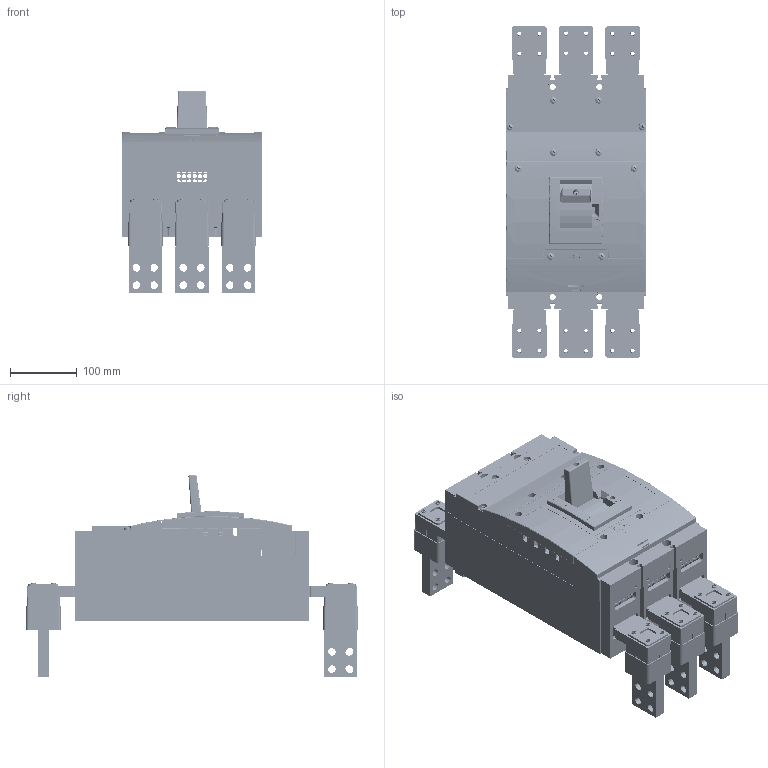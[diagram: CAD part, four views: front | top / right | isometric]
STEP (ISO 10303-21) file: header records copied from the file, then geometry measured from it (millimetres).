
FILE_DESCRIPTION (( 'STEP AP214' ), '1' );
FILE_NAME ('BL1600SE305__SE-BL__CS-BL-A021.step', '2011-09-08T07:41:23', ( 'Radek Veselý' ), ( 'Siemens and Partners' ), 'SwSTEP 2.0', 'SolidWorks 2006303', '' );
FILE_SCHEMA (( 'AUTOMOTIVE_DESIGN' ));
Length unit declared in the file: millimetre
Products named in the file (1): BL1600SE305__SE-BL__CS-BL-A021
Bounding box: 210 x 497 x 303.02 mm (x, y, z)
Volume: 4453848.9 mm3; surface area: 1761017.8 mm2
Topology: 69 solids, 69 shells, 7449 faces, 20322 edges, 13037 vertices
Faces by surface type: plane 3963, cylinder 2753, cone 258, torus 187, sphere 158, bspline 130
Entity records: 330441 total; most frequent: CARTESIAN_POINT 55888, ORIENTED_EDGE 40386, DIRECTION 39960, EDGE_CURVE 20193, AXIS2_PLACEMENT_3D 13504, VERTEX_POINT 13027, VECTOR 12952, LINE 12952
